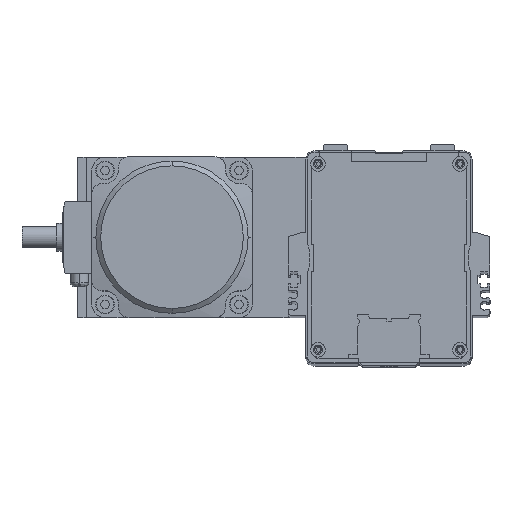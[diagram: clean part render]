
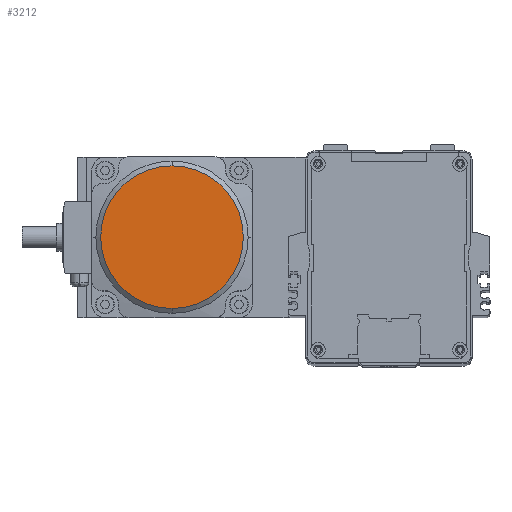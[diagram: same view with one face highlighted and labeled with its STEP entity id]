
A CAD part, top view. The second image highlights one B-rep face of the part: STEP entity #3212.
In plain terms, the highlighted planar face has unit normal (0, 0, 1).
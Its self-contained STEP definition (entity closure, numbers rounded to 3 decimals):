
#3212 = ADVANCED_FACE ( 'NONE', ( #30120 ), #30117, .F. ) ;
#3219 = EDGE_LOOP ( 'NONE', ( #3267, #3285 ) ) ;
#3264 = EDGE_CURVE ( 'NONE', #3460, #3510, #30265, .T. ) ;
#3267 = ORIENTED_EDGE ( 'NONE', *, *, #3499, .F. ) ;
#3285 = ORIENTED_EDGE ( 'NONE', *, *, #3264, .F. ) ;
#3460 = VERTEX_POINT ( 'NONE', #31090 ) ;
#3499 = EDGE_CURVE ( 'NONE', #3510, #3460, #31199, .T. ) ;
#3510 = VERTEX_POINT ( 'NONE', #31182 ) ;
#30117 = PLANE ( 'NONE',  #30137 ) ;
#30120 = FACE_OUTER_BOUND ( 'NONE', #3219, .T. ) ;
#30137 = AXIS2_PLACEMENT_3D ( 'NONE', #30249, #30247, #30246 ) ;
#30246 = DIRECTION ( 'NONE',  ( 0., 1., 0. ) ) ;
#30247 = DIRECTION ( 'NONE',  ( 0., 0., -1. ) ) ;
#30249 = CARTESIAN_POINT ( 'NONE',  ( 106.19, -4.031, 64. ) ) ;
#30265 = CIRCLE ( 'NONE', #30377, 26.616 ) ;
#30359 = DIRECTION ( 'NONE',  ( 0., 1., 0. ) ) ;
#30361 = DIRECTION ( 'NONE',  ( 0., 0., -1. ) ) ;
#30362 = CARTESIAN_POINT ( 'NONE',  ( 106.19, -4.031, 64. ) ) ;
#30377 = AXIS2_PLACEMENT_3D ( 'NONE', #30362, #30361, #30359 ) ;
#31090 = CARTESIAN_POINT ( 'NONE',  ( 106.19, -30.647, 64. ) ) ;
#31182 = CARTESIAN_POINT ( 'NONE',  ( 106.19, 22.585, 64. ) ) ;
#31194 = AXIS2_PLACEMENT_3D ( 'NONE', #31209, #31304, #31302 ) ;
#31199 = CIRCLE ( 'NONE', #31194, 26.616 ) ;
#31209 = CARTESIAN_POINT ( 'NONE',  ( 106.19, -4.031, 64. ) ) ;
#31302 = DIRECTION ( 'NONE',  ( 0., 1., 0. ) ) ;
#31304 = DIRECTION ( 'NONE',  ( 0., 0., -1. ) ) ;
